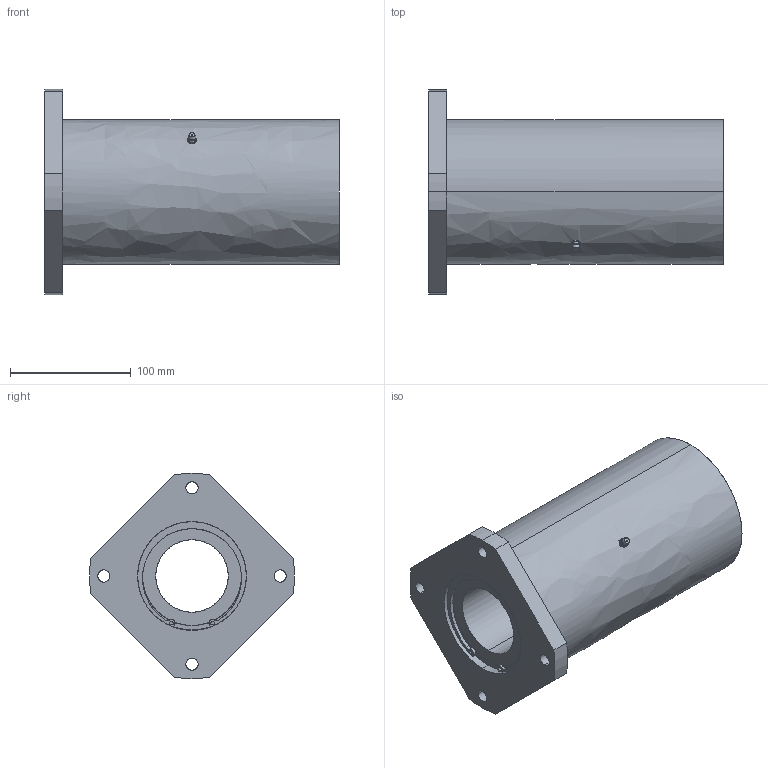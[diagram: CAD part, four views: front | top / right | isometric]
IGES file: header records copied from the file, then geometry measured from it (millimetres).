
Global section: file name: No Iges File Name specified; native system: AutoDesk Inventor R10; preprocessor: AutoDesk Inventor Iges Exporter R10; author: No Author specified; organization: No Organization specified; date: 20101214.140411; units: millimetre
Bounding box: 244 x 169.69 x 170 mm (x, y, z)
Surface area: 197317.6 mm2 (no closed solid volume)
Topology: 0 solids, 0 shells, 155 faces, 1035 edges, 1033 vertices
Faces by surface type: bspline 155
